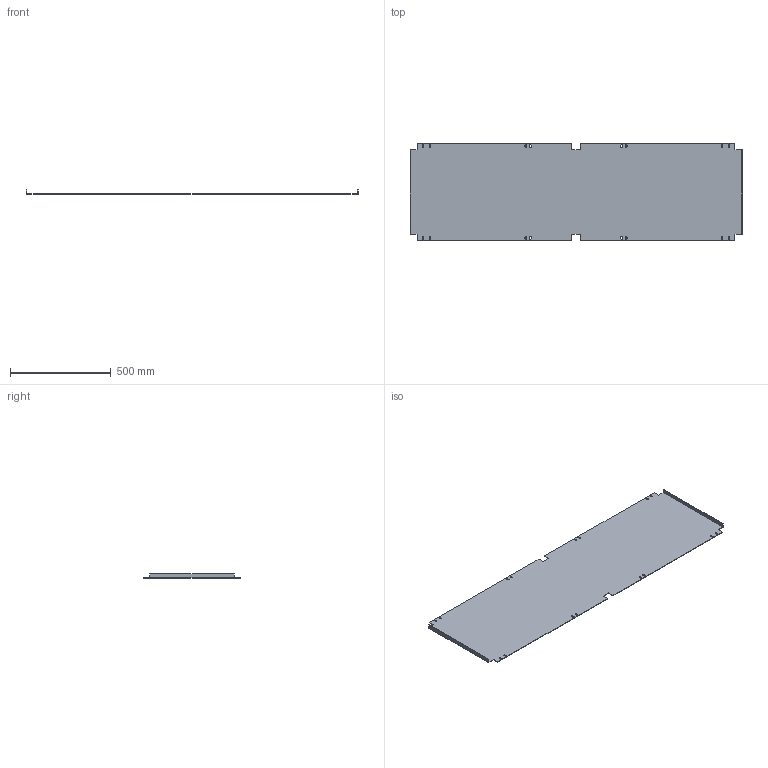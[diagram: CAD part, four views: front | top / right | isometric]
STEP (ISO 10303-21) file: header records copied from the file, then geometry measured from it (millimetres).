
FILE_DESCRIPTION(('Open CASCADE Model'),'2;1');
FILE_NAME('Open CASCADE Shape Model','2025-02-13T17:36:47',('Author'),( 'Open CASCADE'),'Open CASCADE STEP processor 7.8','Open CASCADE 7.8' ,'Unknown');
FILE_SCHEMA(('AUTOMOTIVE_DESIGN { 1 0 10303 214 1 1 1 1 }'));
Length unit declared in the file: millimetre
Products named in the file (1): Solid1
Bounding box: 1650 x 480 x 20 mm (x, y, z)
Volume: 1996750.6 mm3; surface area: 1609965.1 mm2
Topology: 1 solids, 1 shells, 98 faces, 288 edges, 192 vertices
Faces by surface type: plane 66, cylinder 32
Entity records: 3330 total; most frequent: CARTESIAN_POINT 579, ORIENTED_EDGE 576, DIRECTION 550, EDGE_CURVE 288, LINE 224, VECTOR 224, VERTEX_POINT 192, AXIS2_PLACEMENT_3D 163
